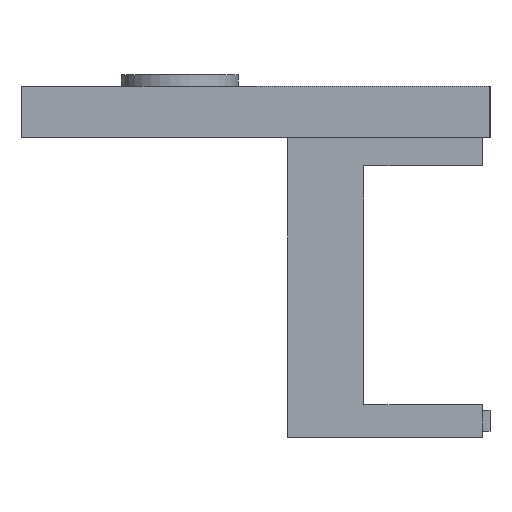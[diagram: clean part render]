
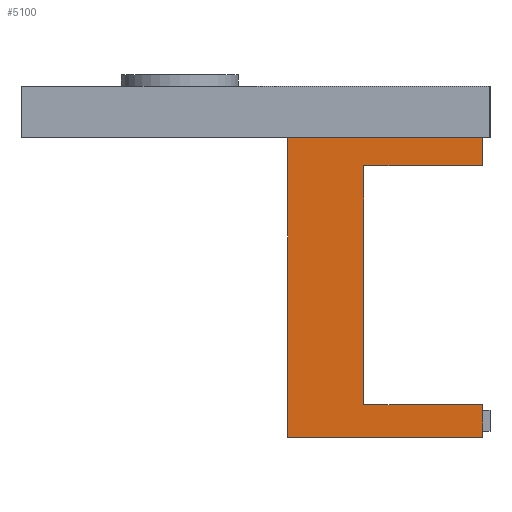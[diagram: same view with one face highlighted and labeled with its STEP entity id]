
A CAD part, left-side view. The second image highlights one B-rep face of the part: STEP entity #5100.
In plain terms, the highlighted planar face has unit normal (-1, 0, 0).
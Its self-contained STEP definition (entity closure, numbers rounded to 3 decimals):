
#72 = PLANE('',#73);
#73 = AXIS2_PLACEMENT_3D('',#74,#75,#76);
#74 = CARTESIAN_POINT('',(-47.5,-21.5,25.6));
#75 = DIRECTION('',(0.,0.,1.));
#76 = DIRECTION('',(1.,0.,-0.));
#1418 = VERTEX_POINT('',#1419);
#1419 = CARTESIAN_POINT('',(-31.05,-20.869,25.6));
#1433 = PLANE('',#1434);
#1434 = AXIS2_PLACEMENT_3D('',#1435,#1436,#1437);
#1435 = CARTESIAN_POINT('',(-31.05,-20.869,23.2));
#1436 = DIRECTION('',(-0.,1.,0.));
#1437 = DIRECTION('',(0.,0.,1.));
#1445 = EDGE_CURVE('',#1446,#1418,#1448,.T.);
#1446 = VERTEX_POINT('',#1447);
#1447 = CARTESIAN_POINT('',(-31.05,-4.218,25.6));
#1448 = SURFACE_CURVE('',#1449,(#1453,#1460),.PCURVE_S1.);
#1449 = LINE('',#1450,#1451);
#1450 = CARTESIAN_POINT('',(-31.05,-60.75,25.6));
#1451 = VECTOR('',#1452,1.);
#1452 = DIRECTION('',(0.,-1.,0.));
#1453 = PCURVE('',#72,#1454);
#1454 = DEFINITIONAL_REPRESENTATION('',(#1455),#1459);
#1455 = LINE('',#1456,#1457);
#1456 = CARTESIAN_POINT('',(16.45,-39.25));
#1457 = VECTOR('',#1458,1.);
#1458 = DIRECTION('',(0.,-1.));
#1459 = ( GEOMETRIC_REPRESENTATION_CONTEXT(2) 
PARAMETRIC_REPRESENTATION_CONTEXT() REPRESENTATION_CONTEXT('2D SPACE',''
  ) );
#1460 = PCURVE('',#1461,#1466);
#1461 = PLANE('',#1462);
#1462 = AXIS2_PLACEMENT_3D('',#1463,#1464,#1465);
#1463 = CARTESIAN_POINT('',(-31.05,-21.5,25.6));
#1464 = DIRECTION('',(1.,0.,-0.));
#1465 = DIRECTION('',(0.,0.,1.));
#1466 = DEFINITIONAL_REPRESENTATION('',(#1467),#1470);
#1467 = B_SPLINE_CURVE_WITH_KNOTS('',1,(#1468,#1469),.UNSPECIFIED.,.F.,
  .F.,(2,2),(-88.25,-39.25),.PIECEWISE_BEZIER_KNOTS.);
#1468 = CARTESIAN_POINT('',(0.,-49.));
#1469 = CARTESIAN_POINT('',(0.,0.));
#1470 = ( GEOMETRIC_REPRESENTATION_CONTEXT(2) 
PARAMETRIC_REPRESENTATION_CONTEXT() REPRESENTATION_CONTEXT('2D SPACE',''
  ) );
#1488 = PLANE('',#1489);
#1489 = AXIS2_PLACEMENT_3D('',#1490,#1491,#1492);
#1490 = CARTESIAN_POINT('',(-59.986,-4.218,-53.224));
#1491 = DIRECTION('',(-0.,1.,0.));
#1492 = DIRECTION('',(0.,0.,1.));
#4720 = VERTEX_POINT('',#4721);
#4721 = CARTESIAN_POINT('',(-31.05,-4.218,0.));
#4735 = PLANE('',#4736);
#4736 = AXIS2_PLACEMENT_3D('',#4737,#4738,#4739);
#4737 = CARTESIAN_POINT('',(-31.05,-20.869,0.));
#4738 = DIRECTION('',(0.,0.,1.));
#4739 = DIRECTION('',(1.,0.,-0.));
#4747 = EDGE_CURVE('',#4720,#1446,#4748,.T.);
#4748 = SURFACE_CURVE('',#4749,(#4753,#4760),.PCURVE_S1.);
#4749 = LINE('',#4750,#4751);
#4750 = CARTESIAN_POINT('',(-31.05,-4.218,0.));
#4751 = VECTOR('',#4752,1.);
#4752 = DIRECTION('',(0.,0.,1.));
#4753 = PCURVE('',#1488,#4754);
#4754 = DEFINITIONAL_REPRESENTATION('',(#4755),#4759);
#4755 = LINE('',#4756,#4757);
#4756 = CARTESIAN_POINT('',(53.224,28.936));
#4757 = VECTOR('',#4758,1.);
#4758 = DIRECTION('',(1.,0.));
#4759 = ( GEOMETRIC_REPRESENTATION_CONTEXT(2) 
PARAMETRIC_REPRESENTATION_CONTEXT() REPRESENTATION_CONTEXT('2D SPACE',''
  ) );
#4760 = PCURVE('',#1461,#4761);
#4761 = DEFINITIONAL_REPRESENTATION('',(#4762),#4766);
#4762 = LINE('',#4763,#4764);
#4763 = CARTESIAN_POINT('',(-25.6,-17.283));
#4764 = VECTOR('',#4765,1.);
#4765 = DIRECTION('',(1.,0.));
#4766 = ( GEOMETRIC_REPRESENTATION_CONTEXT(2) 
PARAMETRIC_REPRESENTATION_CONTEXT() REPRESENTATION_CONTEXT('2D SPACE',''
  ) );
#5100 = ADVANCED_FACE('',(#5101),#1461,.F.);
#5101 = FACE_BOUND('',#5102,.F.);
#5102 = EDGE_LOOP('',(#5103,#5104,#5127,#5155,#5183,#5211,#5239,#5260));
#5103 = ORIENTED_EDGE('',*,*,#1445,.T.);
#5104 = ORIENTED_EDGE('',*,*,#5105,.F.);
#5105 = EDGE_CURVE('',#5106,#1418,#5108,.T.);
#5106 = VERTEX_POINT('',#5107);
#5107 = CARTESIAN_POINT('',(-31.05,-20.869,23.2));
#5108 = SURFACE_CURVE('',#5109,(#5113,#5120),.PCURVE_S1.);
#5109 = LINE('',#5110,#5111);
#5110 = CARTESIAN_POINT('',(-31.05,-20.869,23.2));
#5111 = VECTOR('',#5112,1.);
#5112 = DIRECTION('',(0.,0.,1.));
#5113 = PCURVE('',#1461,#5114);
#5114 = DEFINITIONAL_REPRESENTATION('',(#5115),#5119);
#5115 = LINE('',#5116,#5117);
#5116 = CARTESIAN_POINT('',(-2.4,-0.631));
#5117 = VECTOR('',#5118,1.);
#5118 = DIRECTION('',(1.,0.));
#5119 = ( GEOMETRIC_REPRESENTATION_CONTEXT(2) 
PARAMETRIC_REPRESENTATION_CONTEXT() REPRESENTATION_CONTEXT('2D SPACE',''
  ) );
#5120 = PCURVE('',#1433,#5121);
#5121 = DEFINITIONAL_REPRESENTATION('',(#5122),#5126);
#5122 = LINE('',#5123,#5124);
#5123 = CARTESIAN_POINT('',(0.,0.));
#5124 = VECTOR('',#5125,1.);
#5125 = DIRECTION('',(1.,0.));
#5126 = ( GEOMETRIC_REPRESENTATION_CONTEXT(2) 
PARAMETRIC_REPRESENTATION_CONTEXT() REPRESENTATION_CONTEXT('2D SPACE',''
  ) );
#5127 = ORIENTED_EDGE('',*,*,#5128,.T.);
#5128 = EDGE_CURVE('',#5106,#5129,#5131,.T.);
#5129 = VERTEX_POINT('',#5130);
#5130 = CARTESIAN_POINT('',(-31.05,-10.717,23.2));
#5131 = SURFACE_CURVE('',#5132,(#5136,#5143),.PCURVE_S1.);
#5132 = LINE('',#5133,#5134);
#5133 = CARTESIAN_POINT('',(-31.05,-20.869,23.2));
#5134 = VECTOR('',#5135,1.);
#5135 = DIRECTION('',(-0.,1.,0.));
#5136 = PCURVE('',#1461,#5137);
#5137 = DEFINITIONAL_REPRESENTATION('',(#5138),#5142);
#5138 = LINE('',#5139,#5140);
#5139 = CARTESIAN_POINT('',(-2.4,-0.631));
#5140 = VECTOR('',#5141,1.);
#5141 = DIRECTION('',(0.,-1.));
#5142 = ( GEOMETRIC_REPRESENTATION_CONTEXT(2) 
PARAMETRIC_REPRESENTATION_CONTEXT() REPRESENTATION_CONTEXT('2D SPACE',''
  ) );
#5143 = PCURVE('',#5144,#5149);
#5144 = PLANE('',#5145);
#5145 = AXIS2_PLACEMENT_3D('',#5146,#5147,#5148);
#5146 = CARTESIAN_POINT('',(-31.05,-20.869,23.2));
#5147 = DIRECTION('',(0.,0.,1.));
#5148 = DIRECTION('',(1.,0.,-0.));
#5149 = DEFINITIONAL_REPRESENTATION('',(#5150),#5154);
#5150 = LINE('',#5151,#5152);
#5151 = CARTESIAN_POINT('',(0.,0.));
#5152 = VECTOR('',#5153,1.);
#5153 = DIRECTION('',(0.,1.));
#5154 = ( GEOMETRIC_REPRESENTATION_CONTEXT(2) 
PARAMETRIC_REPRESENTATION_CONTEXT() REPRESENTATION_CONTEXT('2D SPACE',''
  ) );
#5155 = ORIENTED_EDGE('',*,*,#5156,.F.);
#5156 = EDGE_CURVE('',#5157,#5129,#5159,.T.);
#5157 = VERTEX_POINT('',#5158);
#5158 = CARTESIAN_POINT('',(-31.05,-10.717,2.8));
#5159 = SURFACE_CURVE('',#5160,(#5164,#5171),.PCURVE_S1.);
#5160 = LINE('',#5161,#5162);
#5161 = CARTESIAN_POINT('',(-31.05,-10.717,2.7));
#5162 = VECTOR('',#5163,1.);
#5163 = DIRECTION('',(0.,0.,1.));
#5164 = PCURVE('',#1461,#5165);
#5165 = DEFINITIONAL_REPRESENTATION('',(#5166),#5170);
#5166 = LINE('',#5167,#5168);
#5167 = CARTESIAN_POINT('',(-22.9,-10.783));
#5168 = VECTOR('',#5169,1.);
#5169 = DIRECTION('',(1.,0.));
#5170 = ( GEOMETRIC_REPRESENTATION_CONTEXT(2) 
PARAMETRIC_REPRESENTATION_CONTEXT() REPRESENTATION_CONTEXT('2D SPACE',''
  ) );
#5171 = PCURVE('',#5172,#5177);
#5172 = PLANE('',#5173);
#5173 = AXIS2_PLACEMENT_3D('',#5174,#5175,#5176);
#5174 = CARTESIAN_POINT('',(-31.05,-10.717,2.7));
#5175 = DIRECTION('',(-0.,1.,0.));
#5176 = DIRECTION('',(0.,0.,1.));
#5177 = DEFINITIONAL_REPRESENTATION('',(#5178),#5182);
#5178 = LINE('',#5179,#5180);
#5179 = CARTESIAN_POINT('',(0.,0.));
#5180 = VECTOR('',#5181,1.);
#5181 = DIRECTION('',(1.,0.));
#5182 = ( GEOMETRIC_REPRESENTATION_CONTEXT(2) 
PARAMETRIC_REPRESENTATION_CONTEXT() REPRESENTATION_CONTEXT('2D SPACE',''
  ) );
#5183 = ORIENTED_EDGE('',*,*,#5184,.F.);
#5184 = EDGE_CURVE('',#5185,#5157,#5187,.T.);
#5185 = VERTEX_POINT('',#5186);
#5186 = CARTESIAN_POINT('',(-31.05,-20.869,2.8));
#5187 = SURFACE_CURVE('',#5188,(#5192,#5199),.PCURVE_S1.);
#5188 = LINE('',#5189,#5190);
#5189 = CARTESIAN_POINT('',(-31.05,-20.869,2.8));
#5190 = VECTOR('',#5191,1.);
#5191 = DIRECTION('',(-0.,1.,0.));
#5192 = PCURVE('',#1461,#5193);
#5193 = DEFINITIONAL_REPRESENTATION('',(#5194),#5198);
#5194 = LINE('',#5195,#5196);
#5195 = CARTESIAN_POINT('',(-22.8,-0.631));
#5196 = VECTOR('',#5197,1.);
#5197 = DIRECTION('',(0.,-1.));
#5198 = ( GEOMETRIC_REPRESENTATION_CONTEXT(2) 
PARAMETRIC_REPRESENTATION_CONTEXT() REPRESENTATION_CONTEXT('2D SPACE',''
  ) );
#5199 = PCURVE('',#5200,#5205);
#5200 = PLANE('',#5201);
#5201 = AXIS2_PLACEMENT_3D('',#5202,#5203,#5204);
#5202 = CARTESIAN_POINT('',(-31.05,-20.869,2.8));
#5203 = DIRECTION('',(0.,0.,1.));
#5204 = DIRECTION('',(1.,0.,-0.));
#5205 = DEFINITIONAL_REPRESENTATION('',(#5206),#5210);
#5206 = LINE('',#5207,#5208);
#5207 = CARTESIAN_POINT('',(0.,0.));
#5208 = VECTOR('',#5209,1.);
#5209 = DIRECTION('',(0.,1.));
#5210 = ( GEOMETRIC_REPRESENTATION_CONTEXT(2) 
PARAMETRIC_REPRESENTATION_CONTEXT() REPRESENTATION_CONTEXT('2D SPACE',''
  ) );
#5211 = ORIENTED_EDGE('',*,*,#5212,.F.);
#5212 = EDGE_CURVE('',#5213,#5185,#5215,.T.);
#5213 = VERTEX_POINT('',#5214);
#5214 = CARTESIAN_POINT('',(-31.05,-20.869,0.));
#5215 = SURFACE_CURVE('',#5216,(#5220,#5227),.PCURVE_S1.);
#5216 = LINE('',#5217,#5218);
#5217 = CARTESIAN_POINT('',(-31.05,-20.869,0.));
#5218 = VECTOR('',#5219,1.);
#5219 = DIRECTION('',(0.,0.,1.));
#5220 = PCURVE('',#1461,#5221);
#5221 = DEFINITIONAL_REPRESENTATION('',(#5222),#5226);
#5222 = LINE('',#5223,#5224);
#5223 = CARTESIAN_POINT('',(-25.6,-0.631));
#5224 = VECTOR('',#5225,1.);
#5225 = DIRECTION('',(1.,0.));
#5226 = ( GEOMETRIC_REPRESENTATION_CONTEXT(2) 
PARAMETRIC_REPRESENTATION_CONTEXT() REPRESENTATION_CONTEXT('2D SPACE',''
  ) );
#5227 = PCURVE('',#5228,#5233);
#5228 = PLANE('',#5229);
#5229 = AXIS2_PLACEMENT_3D('',#5230,#5231,#5232);
#5230 = CARTESIAN_POINT('',(-31.05,-20.869,0.));
#5231 = DIRECTION('',(-0.,1.,0.));
#5232 = DIRECTION('',(0.,0.,1.));
#5233 = DEFINITIONAL_REPRESENTATION('',(#5234),#5238);
#5234 = LINE('',#5235,#5236);
#5235 = CARTESIAN_POINT('',(0.,0.));
#5236 = VECTOR('',#5237,1.);
#5237 = DIRECTION('',(1.,0.));
#5238 = ( GEOMETRIC_REPRESENTATION_CONTEXT(2) 
PARAMETRIC_REPRESENTATION_CONTEXT() REPRESENTATION_CONTEXT('2D SPACE',''
  ) );
#5239 = ORIENTED_EDGE('',*,*,#5240,.T.);
#5240 = EDGE_CURVE('',#5213,#4720,#5241,.T.);
#5241 = SURFACE_CURVE('',#5242,(#5246,#5253),.PCURVE_S1.);
#5242 = LINE('',#5243,#5244);
#5243 = CARTESIAN_POINT('',(-31.05,-20.869,0.));
#5244 = VECTOR('',#5245,1.);
#5245 = DIRECTION('',(-0.,1.,0.));
#5246 = PCURVE('',#1461,#5247);
#5247 = DEFINITIONAL_REPRESENTATION('',(#5248),#5252);
#5248 = LINE('',#5249,#5250);
#5249 = CARTESIAN_POINT('',(-25.6,-0.631));
#5250 = VECTOR('',#5251,1.);
#5251 = DIRECTION('',(0.,-1.));
#5252 = ( GEOMETRIC_REPRESENTATION_CONTEXT(2) 
PARAMETRIC_REPRESENTATION_CONTEXT() REPRESENTATION_CONTEXT('2D SPACE',''
  ) );
#5253 = PCURVE('',#4735,#5254);
#5254 = DEFINITIONAL_REPRESENTATION('',(#5255),#5259);
#5255 = LINE('',#5256,#5257);
#5256 = CARTESIAN_POINT('',(0.,0.));
#5257 = VECTOR('',#5258,1.);
#5258 = DIRECTION('',(0.,1.));
#5259 = ( GEOMETRIC_REPRESENTATION_CONTEXT(2) 
PARAMETRIC_REPRESENTATION_CONTEXT() REPRESENTATION_CONTEXT('2D SPACE',''
  ) );
#5260 = ORIENTED_EDGE('',*,*,#4747,.T.);
